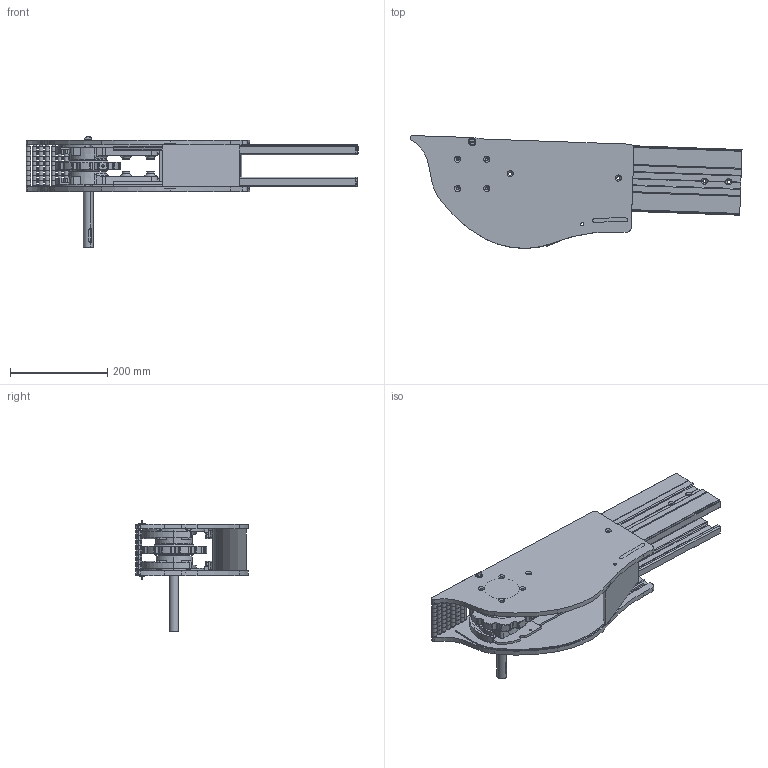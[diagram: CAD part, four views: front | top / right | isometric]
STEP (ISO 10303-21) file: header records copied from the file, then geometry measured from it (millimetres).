
FILE_DESCRIPTION (( 'STEP AP214' ), '1' );
FILE_NAME ('R2M-D20-CMG.STEP', '2011-05-25T13:45:18', ( '.' ), ( '' ), 'SwSTEP 2.0', 'SolidWorks 2010', '' );
FILE_SCHEMA (( 'AUTOMOTIVE_DESIGN' ));
Length unit declared in the file: millimetre
Products named in the file (21): R2PG-HD1000_R2 inclinés à droite inf; AXE-R2_R2M20; R_CMG_A gauche fermé; R_CMG_A droite ouvert; Entretoise carter-flanc en PE; Bouchon pour le dégoupillage de la chaine; 105-4N_R2; CA 30_Entretoise R2; R2PG-HD1000_R2 inclinés à gauche sup; GT_6-10; R2PG-HD1000_R2 inclinés à gauche inf; AXE_D6 (transfert à galets)_AXE_D6-102_INOX; Roulement type BT 30x62x20; 1-2 chape; R2M-D20-CMG; Carter sous chaine_Robur 2 à 120° (D); Carter sous chaine_Robur 2 à 120° (G); 3-880-11N_ROBUR; R2PG-HD1000_R2 incliné à droite sup; R2FS_R2 inclinés à gauche; R2FS_R2 inclinés à droite
Assembly tree (89 placements, depth 2):
  R2M-D20-CMG
    GT_6-10  x56
    Entretoise carter-flanc en PE  x4
    1-2 chape  x2
    R2FS_R2 inclinés à gauche
    Carter sous chaine_Robur 2 à 120° (D)
    AXE_D6 (transfert à galets)_AXE_D6-102_INOX  x8
    AXE-R2_R2M20
    R2FS_R2 inclinés à droite
    R2PG-HD1000_R2 inclinés à gauche sup
    Roulement type BT 30x62x20  x2
    Carter sous chaine_Robur 2 à 120° (G)
    R_CMG_A droite ouvert
    Bouchon pour le dégoupillage de la chaine  x2
    R2PG-HD1000_R2 incliné à droite sup
    105-4N_R2
    3-880-11N_ROBUR
    CA 30_Entretoise R2  x2
    R2PG-HD1000_R2 inclinés à gauche inf
    R2PG-HD1000_R2 inclinés à droite inf
    R_CMG_A gauche fermé
Bounding box: 682.98 x 232.08 x 228.47 mm (x, y, z)
Volume: 3454057.6 mm3; surface area: 1159775.6 mm2
Topology: 87 solids, 95 shells, 1547 faces, 3871 edges, 2540 vertices
Faces by surface type: cylinder 763, plane 590, cone 144, torus 42, bspline 8
Entity records: 33565 total; most frequent: CARTESIAN_POINT 6870, DIRECTION 5485, ORIENTED_EDGE 5086, EDGE_CURVE 2551, AXIS2_PLACEMENT_3D 2091, VERTEX_POINT 1670, VECTOR 1303, LINE 1303
